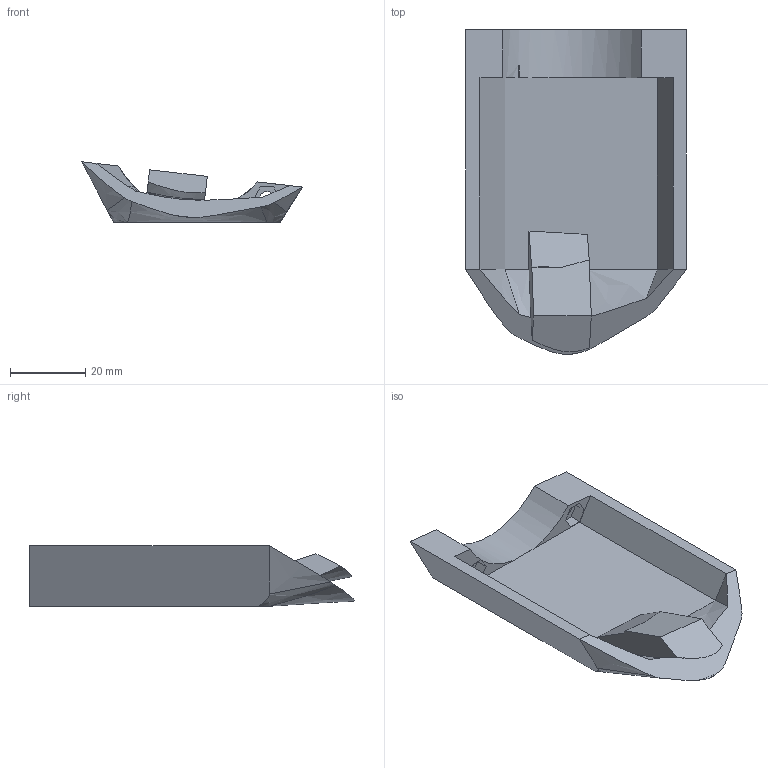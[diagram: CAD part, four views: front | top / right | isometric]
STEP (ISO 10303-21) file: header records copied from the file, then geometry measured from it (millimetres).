
FILE_DESCRIPTION(/* description */ (''),/* implementation_level */ '2;1');
FILE_NAME(/* name */ 'C:\Users\Z\Documents\Inventor\MariahStaff\Electronics Cover NoHoles.stp',/* time_stamp */ '2015-10-30T08:46:44-07:00',/* author */ ('Z'),/* organization */ (''),/* preprocessor_version */ 'ST-DEVELOPER v16.1',/* originating_system */ 'Autodesk Inventor 2016',/* authorisation */ '');
FILE_SCHEMA (('AUTOMOTIVE_DESIGN { 1 0 10303 214 3 1 1 }'));
Length unit declared in the file: inch
Products named in the file (1): Electronics Cover
Bounding box: 58.54 x 86.03 x 16.03 mm (x, y, z)
Volume: 20709.4 mm3; surface area: 12488.9 mm2
Topology: 1 solids, 1 shells, 51 faces, 138 edges, 90 vertices
Faces by surface type: plane 35, bspline 12, cylinder 4
Full cylindrical faces by diameter (mm): 3.607 x2
Entity records: 1866 total; most frequent: CARTESIAN_POINT 663, ORIENTED_EDGE 268, DIRECTION 191, EDGE_CURVE 134, LINE 89, VECTOR 89, VERTEX_POINT 88, EDGE_LOOP 58
